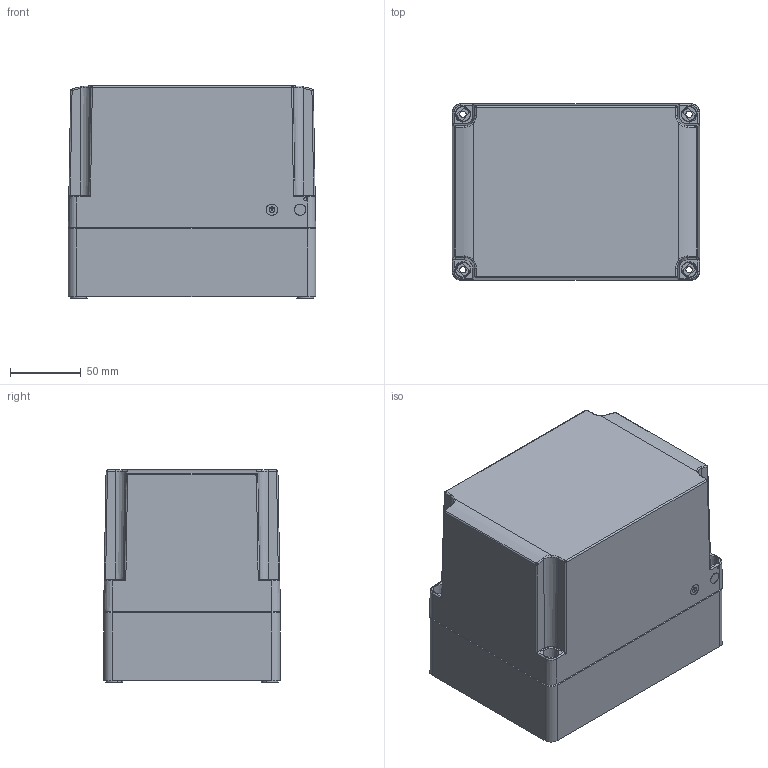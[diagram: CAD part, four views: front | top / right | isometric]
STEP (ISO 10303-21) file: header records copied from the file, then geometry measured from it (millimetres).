
FILE_DESCRIPTION (( 'STEP AP203' ), '1' );
FILE_NAME ('q181315abecc.STEP', '2017-07-11T16:04:33', ( '' ), ( '' ), 'SwSTEP 2.0', 'SolidWorks 2014', '' );
FILE_SCHEMA (( 'CONFIG_CONTROL_DESIGN' ));
Products named in the file (3): q181315abecc; 89157615; 89157686
Assembly tree (2 placements, depth 2):
  q181315abecc
    89157615
    89157686
Bounding box: 175 x 125 x 150 mm (x, y, z)
Volume: 270921.9 mm3; surface area: 273460.5 mm2
Topology: 1 solids, 2 shells, 1114 faces, 3155 edges, 2095 vertices
Faces by surface type: plane 612, cylinder 272, bspline 120, cone 110
Entity records: 81098 total; most frequent: CARTESIAN_POINT 54288, ORIENTED_EDGE 6218, DIRECTION 4423, EDGE_CURVE 3131, VERTEX_POINT 2098, VECTOR 1561, LINE 1561, AXIS2_PLACEMENT_3D 1431
